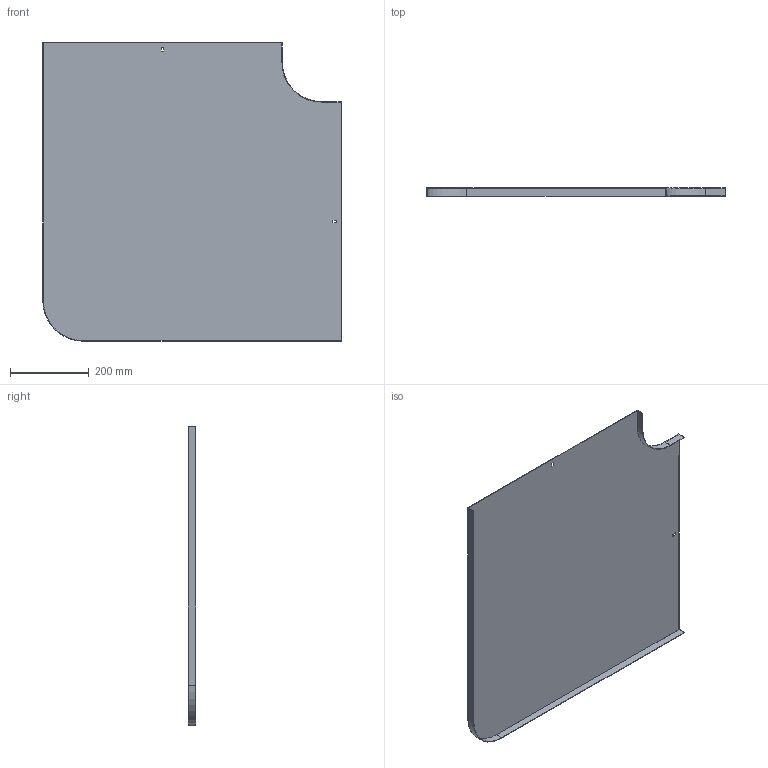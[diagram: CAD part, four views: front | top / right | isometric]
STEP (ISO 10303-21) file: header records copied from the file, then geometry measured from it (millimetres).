
FILE_DESCRIPTION (( 'STEP AP214' ), '1' );
FILE_NAME ('10N1R600.step', '2025-02-21T09:22:01', ( '' ), ( '' ), 'SwSTEP 2.0', 'SolidWorks 2023', '' );
FILE_SCHEMA (( 'AUTOMOTIVE_DESIGN' ));
Length unit declared in the file: millimetre
Products named in the file (1): 10N1R600
Bounding box: 755.5 x 20 x 755.5 mm (x, y, z)
Volume: 870513.3 mm3; surface area: 1165292.6 mm2
Topology: 1 solids, 1 shells, 26 faces, 72 edges, 48 vertices
Faces by surface type: plane 22, cylinder 4
Entity records: 855 total; most frequent: CARTESIAN_POINT 147, ORIENTED_EDGE 144, DIRECTION 134, EDGE_CURVE 72, LINE 64, VECTOR 64, VERTEX_POINT 48, AXIS2_PLACEMENT_3D 35
